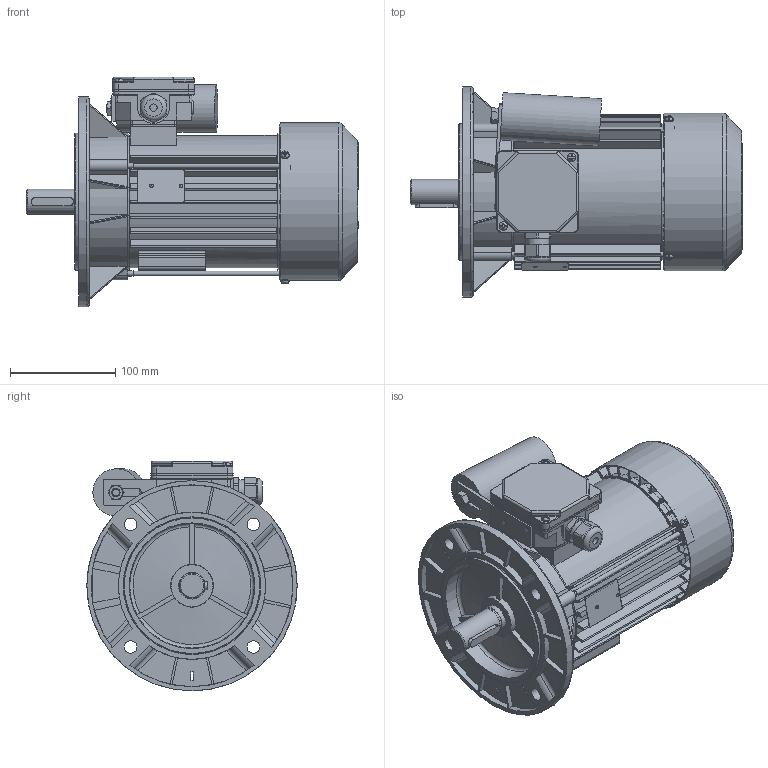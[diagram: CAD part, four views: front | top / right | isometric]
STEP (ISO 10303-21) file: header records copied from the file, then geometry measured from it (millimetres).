
FILE_DESCRIPTION( ( 'Unknown' ), '1' );
FILE_NAME( 'G:/Poczta Tk-1/STP/w.m.90/SEh90/SEKh90-.S.stp', 'Unknown', ( 'K. Szlosek' ), ( 'BESEL S.A.' ), 'PSStep 17.0.49', 'Unknown', ' ' );
FILE_SCHEMA( ( 'AUTOMOTIVE_DESIGN { 1 0 10303 214 1 1 1 1 }' ) );
Length unit declared in the file: millimetre
Products named in the file (46): skrznka zaciskowa jednofazowa ; K4-2820 Uszczelka nr 2 Sh71,80; K2-1131 Podstawa skrzynki zaciskowej jednofazowa; K4-2999 Uchwyt kondensatora; Nit 4x12 po skróceniu; nakrętka M8; K4-0898 Tulejka uszczelniająca; Dławnica M20x1,5; K2-0860 Pokrywka skrzynki zaciskowej; Assem1; K1-1257 Kadłub S(E,M)h80-C i D; K2-1715 Przewietrznik; Wpust A8x7x40; K3-7808 Wał Sh90-.S; Wkręt samogwintujący M4x12; Tabliczka znamionowa 32x44; Kondensator zb 25-31,5uF Comar; K4-4489 Osłona przewietrznika Sh80,90-A,C; K4-2320 Uszczelka nr 1 Sh71,80; K2-2027 Tarcza łożyskowa P S(E,M)h80-.A,C; Wkręt samogwintujący M4x8; Łożysko 6205; Łożysko 6204; Śruba ściągająca E_M5x168; Nitokołek A 2x6; K3-7772 Tarcza kołnierzowa 90 B5 Sh
Assembly tree (52 placements, depth 3):
  Assem1
    K1-1257 Kadłub S(E,M)h80-C i D
    K2-1715 Przewietrznik
    Wpust A8x7x40
    K3-7808 Wał Sh90-.S
    Wkręt samogwintujący M4x12  x2
    Tabliczka znamionowa 32x44
    Kondensator zb 25-31,5uF Comar
    K4-4489 Osłona przewietrznika Sh80,90-A,C
    K4-2320 Uszczelka nr 1 Sh71,80
    K2-2027 Tarcza łożyskowa P S(E,M)h80-.A,C
    Wkręt samogwintujący M4x8  x3
    Łożysko 6205
    Łożysko 6205
    Łożysko 6205
    Łożysko 6205
    Łożysko 6205
    Łożysko 6205
    Łożysko 6205
    Łożysko 6205
    Łożysko 6205
    Łożysko 6205
    Łożysko 6205
    Łożysko 6205
    Łożysko 6204
    Łożysko 6204
    Łożysko 6204
    Łożysko 6204
    Łożysko 6204
    Łożysko 6204
    Łożysko 6204
    Łożysko 6204
    Łożysko 6204
    Łożysko 6204
    Śruba ściągająca E_M5x168  x3
    Nitokołek A 2x6  x2
    K3-7772 Tarcza kołnierzowa 90 B5 Sh
    skrznka zaciskowa jednofazowa 
      K4-2820 Uszczelka nr 2 Sh71,80
      K2-1131 Podstawa skrzynki zaciskowej jednofazowa
      K4-2999 Uchwyt kondensatora
      Nit 4x12 po skróceniu  x2
      nakrętka M8
      K4-0898 Tulejka uszczelniająca
      Dławnica M20x1,5
      K2-0860 Pokrywka skrzynki zaciskowej
Bounding box: 315.8 x 200 x 218.5 mm (x, y, z)
Volume: 1204697.2 mm3; surface area: 645302.5 mm2
Topology: 51 solids, 69 shells, 2474 faces, 6797 edges, 4395 vertices
Faces by surface type: plane 1257, cylinder 813, bspline 137, cone 131, torus 96, sphere 40
Full cylindrical faces by diameter (mm): 2 x2, 2.4 x2, 3 x2, 3.7 x11, 4 x7, 4.134 x3, 4.3 x2, 4.5 x3, 4.6 x3, 4.8 x4, 5 x7, 5.5 x3, 6 x2, 6.5 x1, 6.647 x1, 7 x1, 8 x10, 10 x2, 12 x4, 18.376 x1, 18.38 x1, 19.3 x1, 19.5 x2, 19.6 x1, 19.9 x1, 20 x3, 20.4 x1, 22.3 x1, 23.6 x1, 24 x1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
Entity records: 114846 total; most frequent: CARTESIAN_POINT 39204, ORIENTED_EDGE 12024, DIRECTION 11756, EDGE_CURVE 6012, AXIS2_PLACEMENT_3D 4338, VERTEX_POINT 4108, LINE 3080, VECTOR 3080
